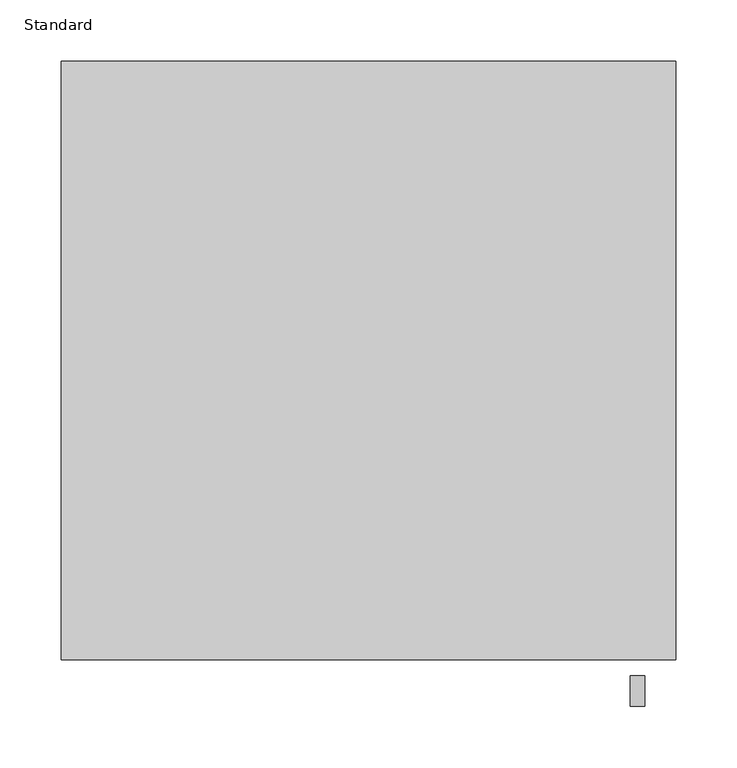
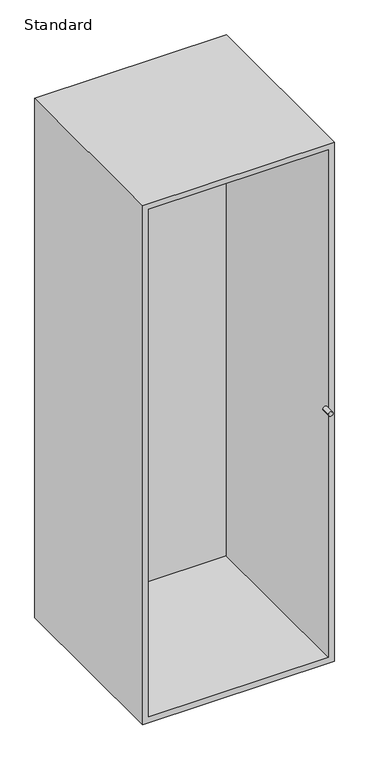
"""IFC4 building model written with IfcOpenShell, lengths in millimetres: furniture geometry, X_Locker-Duracube-EOT Bay : Standard."""

from ifc_helpers import new_model, si_unit, point, frame, frame_2d, origin, place, context, project, spatial, circle_curve, trimmed, segment, composite_curve, outline, extrude, faceted_brep, source, transform, mapped, element, save


def standard_fa3f27c9(model_context):
    return source(origin(), model_context, "Body", "SolidModel", [
        extrude(outline(composite_curve([segment(trimmed(circle_curve(frame_2d((715.0, 263.7003264)), 6.0), [point((715.0, 257.7003264))], [point((715.0, 269.7003264))], False, "CARTESIAN"), True, "CONTINUOUS"), segment(trimmed(circle_curve(frame_2d((715.0, 263.7003264)), 6.0), [point((715.0, 269.7003264))], [point((715.0, 257.7003264))], False, "CARTESIAN"), True, "CONTINUOUS")], self_intersect=False)), frame((0.0, -525.0, 0.0), z_axis=(0.0, 1.0, 0.0), x_axis=(0.0, 0.0, 1.0)), (0.0, 0.0, 1.0), 25.0),
        faceted_brep([(294.7003264, -487.0, 1430.0), (-205.2996736, -487.0, 1430.0), (-205.2996736, -487.0, 0.0), (294.7003264, -487.0, 0.0), (278.7003264, -487.0, 1414.0), (278.7003264, -487.0, 16.0), (-189.2996736, -487.0, 16.0), (-189.2996736, -487.0, 1414.0), (-205.2996736, 0.0, 1430.0), (-205.2996736, 0.0, 0.0), (294.7003264, 0.0, 0.0), (294.7003264, 0.0, 1430.0), (278.7003264, -26.0, 1414.0), (278.7003264, -26.0, 16.0), (278.7003264, 0.0, 1414.0), (278.7003264, 0.0, 16.0), (278.7003264, -10.0, 16.0), (278.7003264, -10.0, 1414.0), (-189.2996736, -26.0, 16.0), (-189.2996736, 0.0, 16.0), (-189.2996736, -10.0, 16.0), (-189.2996736, -26.0, 1414.0), (-189.2996736, 0.0, 1414.0), (-189.2996736, -10.0, 1414.0)], [[[0, 1, 2, 3], [4, 5, 6, 7]], [[2, 1, 8, 9]], [[3, 2, 9, 10]], [[0, 3, 10, 11]], [[5, 4, 12, 13]], [[14, 15, 16, 17]], [[6, 5, 13, 18]], [[15, 19, 20, 16]], [[7, 6, 18, 21]], [[19, 22, 23, 20]], [[11, 10, 9, 8], [14, 22, 19, 15]], [[13, 12, 21, 18]], [[17, 16, 20, 23]], [[1, 0, 11, 8]], [[4, 7, 21, 12]], [[22, 14, 17, 23]]]),
    ])


if __name__ == "__main__":
    model = new_model("IFC4")
    model_context = context("Model", 3, world=origin())
    ifc_project = project(units=[si_unit("LENGTHUNIT", "METRE", prefix="MILLI")], contexts=[model_context])
    site = spatial("IfcSite", under=ifc_project)
    building = spatial("IfcBuilding", under=site)
    placement = place(None, origin())
    standard_shape = standard_fa3f27c9(model_context)
    element("IfcFurniture", 1, ObjectType="X_Locker-Duracube-EOT Bay : Standard", at=placement, inside=building, context=model_context, shape_type="MappedRepresentation", body=[
        mapped(standard_shape, transform((0.0, 0.0, 0.0), x_axis=(1.0, 0.0, 0.0), y_axis=(0.0, 1.0, 0.0), z_axis=(0.0, 0.0, 1.0))),
    ])
    save(model, "model.ifc")
